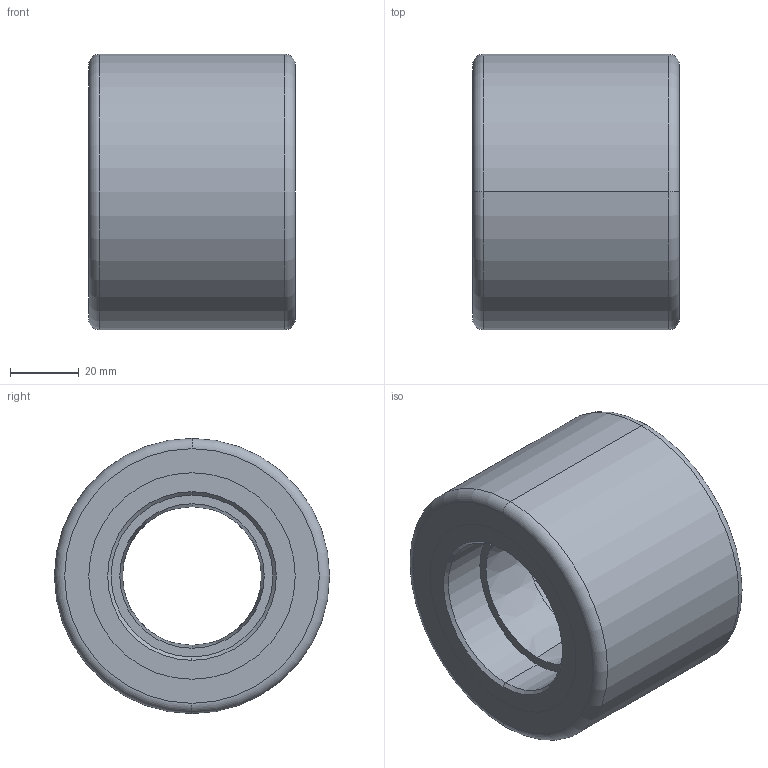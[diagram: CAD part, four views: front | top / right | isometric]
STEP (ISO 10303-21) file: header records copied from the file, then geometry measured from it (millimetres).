
FILE_DESCRIPTION (( 'STEP AP203' ), '1' );
FILE_NAME ('12033303253100.STEP', '2025-09-08T02:54:25', ( '20241006' ), ( '' ), 'SwSTEP 2.0', 'SolidWorks 2021', '' );
FILE_SCHEMA (( 'CONFIG_CONTROL_DESIGN' ));
Length unit declared in the file: millimetre
Products named in the file (1): 12033303253100
Bounding box: 60 x 80 x 80 mm (x, y, z)
Volume: 209322.7 mm3; surface area: 29814.3 mm2
Topology: 1 solids, 1 shells, 24 faces, 48 edges, 30 vertices
Faces by surface type: cone 8, cylinder 6, plane 6, torus 4
Entity records: 719 total; most frequent: DIRECTION 132, CARTESIAN_POINT 103, ORIENTED_EDGE 96, AXIS2_PLACEMENT_3D 59, EDGE_CURVE 48, CIRCLE 34, EDGE_LOOP 30, VERTEX_POINT 30
